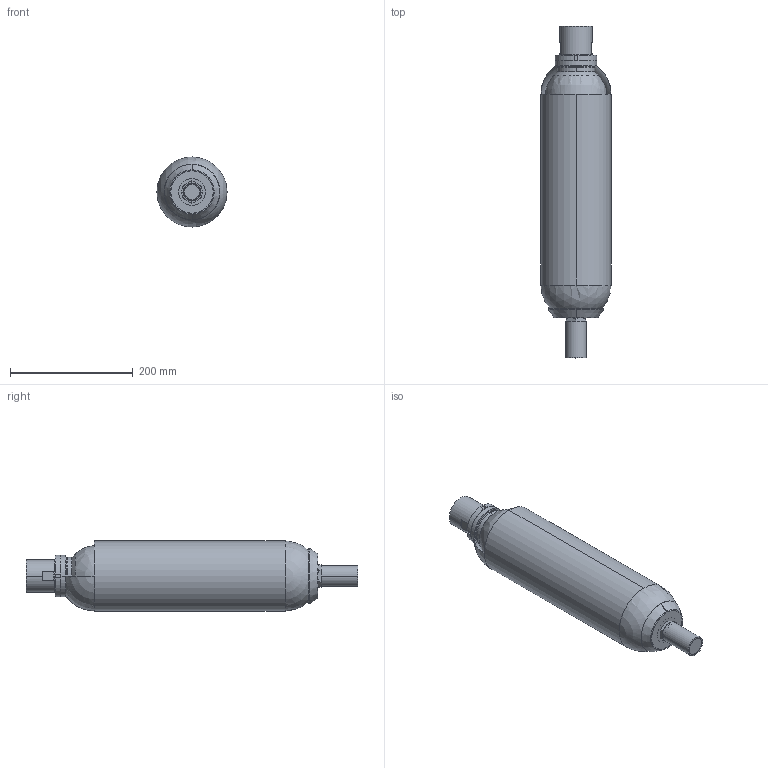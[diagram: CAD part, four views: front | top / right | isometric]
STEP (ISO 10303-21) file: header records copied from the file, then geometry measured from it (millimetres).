
FILE_DESCRIPTION((''),'2;1');
FILE_NAME('EHV_2L5_350_90.stp','2011-02-28T16:39:42',(''),(''),'Mechanical Desktop 2009','Mechanical Desktop 2009',', , ');
FILE_SCHEMA(('CONFIG_CONTROL_DESIGN'));
Length unit declared in the file: millimetre
Products named in the file (20): DESSIN6; AD108547-01125; CA108603-00190(1); CA108603-00190; BC108608-00220; BE100016-00200(1); BE100016-00200; BM108569-00200; CB108568-00200(1); CB108568-00200; EC100987-00200(1); EC100987-00200; EC102958-00200(1); EC102958-00200; BP102851-00200; BOUCHON DE PROTECTION; BOUCHON PLASTIQUE; PF108610-05200(1); PF108610-05200; GABARIT
Assembly tree (19 placements, depth 6):
  DESSIN6
    AD108547-01125
      CA108603-00190(1)
        CA108603-00190
      BC108608-00220
        BE100016-00200(1)
          BE100016-00200
        BM108569-00200
          CB108568-00200(1)
            CB108568-00200
        EC100987-00200(1)
          EC100987-00200
      EC102958-00200(1)
        EC102958-00200
      BP102851-00200
        BOUCHON DE PROTECTION
        BOUCHON PLASTIQUE
      PF108610-05200(1)
        PF108610-05200
    GABARIT
Bounding box: 114.3 x 541.7 x 114.3 mm (x, y, z)
Volume: 394120.1 mm3; surface area: 380788 mm2
Topology: 8 solids, 8 shells, 199 faces, 492 edges, 306 vertices
Faces by surface type: cylinder 76, plane 56, cone 46, bspline 12, torus 6, sphere 3
Entity records: 6855 total; most frequent: CARTESIAN_POINT 1751, DIRECTION 1122, ORIENTED_EDGE 930, AXIS2_PLACEMENT_3D 474, EDGE_CURVE 465, VERTEX_POINT 299, CIRCLE 267, EDGE_LOOP 242
